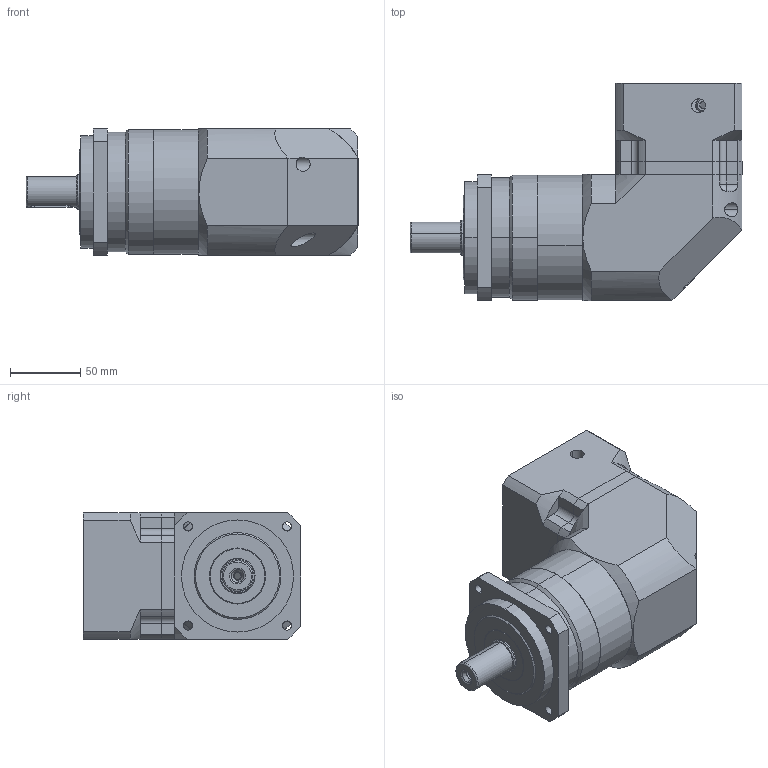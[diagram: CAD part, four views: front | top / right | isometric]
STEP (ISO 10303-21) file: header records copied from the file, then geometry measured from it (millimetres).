
FILE_DESCRIPTION (( 'STEP AP214' ), '1' );
FILE_NAME ('M5.STEP', '2019-10-23T03:10:07', ( '' ), ( '' ), 'SwSTEP 2.0', 'SolidWorks 2015', '' );
FILE_SCHEMA (( 'AUTOMOTIVE_DESIGN' ));
Length unit declared in the file: millimetre
Products named in the file (2): M5
Bounding box: 237 x 155 x 90 mm (x, y, z)
Surface area: 137494.1 mm2 (no closed solid volume)
Topology: 0 solids, 12 shells, 245 faces, 771 edges, 543 vertices
Faces by surface type: cylinder 123, plane 90, cone 24, torus 4, bspline 2, sphere 2
Entity records: 12074 total; most frequent: CARTESIAN_POINT 2336, DIRECTION 1556, ORIENTED_EDGE 1281, EDGE_CURVE 769, AXIS2_PLACEMENT_3D 602, VERTEX_POINT 543, CIRCLE 357, VECTOR 352
